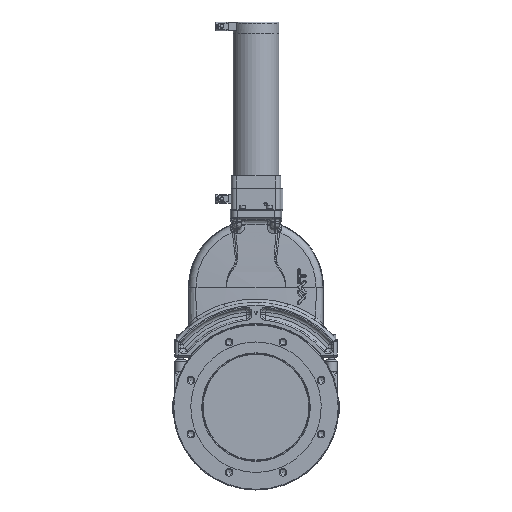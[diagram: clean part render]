
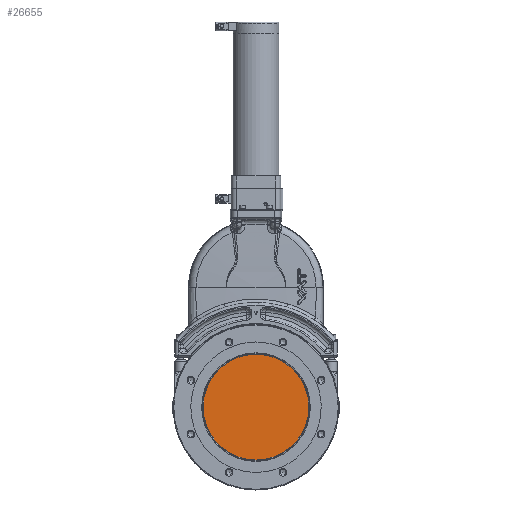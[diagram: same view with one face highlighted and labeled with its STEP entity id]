
A CAD part, top view. The second image highlights one B-rep face of the part: STEP entity #26655.
In plain terms, the highlighted planar face has unit normal (0, 0, 1).
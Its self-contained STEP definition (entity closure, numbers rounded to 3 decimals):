
#22890=PLANE('',#65319);
#24040=FACE_OUTER_BOUND('',#32054,.T.);
#26655=ADVANCED_FACE('',(#24040),#22890,.T.);
#32054=EDGE_LOOP('',(#36076));
#36076=ORIENTED_EDGE('',*,*,#55930,.T.);
#50980=VERTEX_POINT('',#82000);
#55930=EDGE_CURVE('',#50980,#50980,#63383,.T.);
#63383=CIRCLE('',#65316,75.075);
#65316=AXIS2_PLACEMENT_3D('',#81999,#70015,#70016);
#65319=AXIS2_PLACEMENT_3D('',#82003,#70021,#70022);
#70015=DIRECTION('',(0.,0.,1.));
#70016=DIRECTION('',(1.,0.,0.));
#70021=DIRECTION('',(0.,0.,1.));
#70022=DIRECTION('',(1.,0.,0.));
#81999=CARTESIAN_POINT('',(0.,0.,10.85));
#82000=CARTESIAN_POINT('',(75.075,0.,10.85));
#82003=CARTESIAN_POINT('',(0.,0.,10.85));
